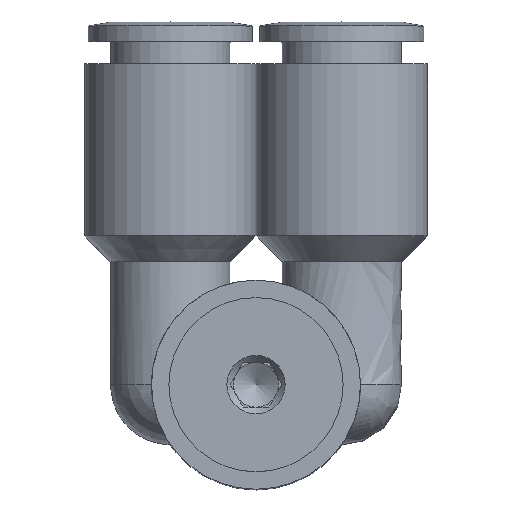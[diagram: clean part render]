
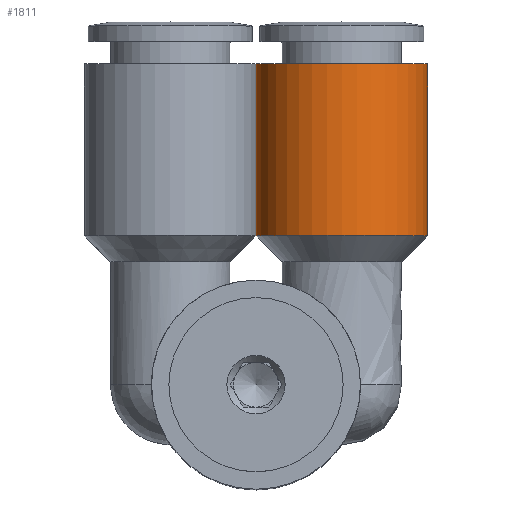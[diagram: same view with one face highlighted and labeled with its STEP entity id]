
A CAD part, top view. The second image highlights one B-rep face of the part: STEP entity #1811.
In plain terms, the highlighted free-form (B-spline) face has degree [1, 2] with [2, 9] control points.
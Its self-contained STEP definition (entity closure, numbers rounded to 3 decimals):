
#1746=CARTESIAN_POINT('',(0.,10.,15.0));
#1747=VERTEX_POINT('',#1746);
#1748=CARTESIAN_POINT('',(5.75,10.,15.0));
#1749=DIRECTION('',(0.0,-1.0,0.0));
#1750=DIRECTION('',(1.0,0.0,0.0));
#1751=AXIS2_PLACEMENT_3D('',#1748,#1749,#1750);
#1752=CIRCLE('',#1751,5.75);
#1753=EDGE_CURVE('',#1747,#1747,#1752,.T.);
#1761=CARTESIAN_POINT('',(0.,10.,15.0));
#1762=CARTESIAN_POINT('',(0.,21.5,15.0));
#1763=CARTESIAN_POINT('',(0.,10.,9.25));
#1764=CARTESIAN_POINT('',(0.,21.5,9.25));
#1765=CARTESIAN_POINT('',(5.75,10.0,9.25));
#1766=CARTESIAN_POINT('',(5.75,21.5,9.25));
#1767=CARTESIAN_POINT('',(11.5,10.,9.25));
#1768=CARTESIAN_POINT('',(11.5,21.5,9.25));
#1769=CARTESIAN_POINT('',(11.5,10.,15.0));
#1770=CARTESIAN_POINT('',(11.5,21.5,15.0));
#1771=CARTESIAN_POINT('',(11.5,10.,20.75));
#1772=CARTESIAN_POINT('',(11.5,21.5,20.75));
#1773=CARTESIAN_POINT('',(5.75,10.0,20.75));
#1774=CARTESIAN_POINT('',(5.75,21.5,20.75));
#1775=CARTESIAN_POINT('',(0.,10.,20.75));
#1776=CARTESIAN_POINT('',(0.,21.5,20.75));
#1777=CARTESIAN_POINT('',(0.,10.,15.0));
#1778=CARTESIAN_POINT('',(0.,21.5,15.0));
#1786=(BOUNDED_SURFACE()B_SPLINE_SURFACE(1,2,((#1761,#1763,#1765,#1767,#1769,#1771,#1773,#1775,#1777),(#1762,#1764,#1766,#1768,#1770,#1772,#1774,#1776,#1778)),.UNSPECIFIED.,.F.,.T.,.U.)B_SPLINE_SURFACE_WITH_KNOTS((2,2),(3,2,2,2,3),(-1.,1.),(0.0,9.032,18.064,27.096,36.128),.UNSPECIFIED.)GEOMETRIC_REPRESENTATION_ITEM()RATIONAL_B_SPLINE_SURFACE(((1.0,0.707,1.0,0.707,1.0,0.707,1.0,0.707,1.0),(1.0,0.707,1.0,0.707,1.0,0.707,1.0,0.707,1.0)))REPRESENTATION_ITEM('')SURFACE());
#1787=CARTESIAN_POINT('',(0.,21.5,15.0));
#1788=VERTEX_POINT('',#1787);
#1789=CARTESIAN_POINT('',(5.75,21.5,15.0));
#1790=DIRECTION('',(0.0,-1.0,0.0));
#1791=DIRECTION('',(1.0,0.0,0.0));
#1792=AXIS2_PLACEMENT_3D('',#1789,#1790,#1791);
#1793=CIRCLE('',#1792,5.75);
#1794=EDGE_CURVE('',#1788,#1788,#1793,.T.);
#1795=ORIENTED_EDGE('',*,*,#1794,.T.);
#1796=CARTESIAN_POINT('',(0.,21.5,15.0));
#1797=DIRECTION('',(0.0,-1.0,0.0));
#1798=VECTOR('',#1797,11.5);
#1799=LINE('',#1796,#1798);
#1800=EDGE_CURVE('',#1788,#1747,#1799,.T.);
#1801=ORIENTED_EDGE('',*,*,#1800,.T.);
#1802=ORIENTED_EDGE('',*,*,#1753,.F.);
#1803=CARTESIAN_POINT('',(0.,21.5,15.0));
#1804=DIRECTION('',(0.0,-1.0,0.0));
#1805=VECTOR('',#1804,11.5);
#1806=LINE('',#1803,#1805);
#1807=EDGE_CURVE('',#1788,#1747,#1806,.T.);
#1808=ORIENTED_EDGE('',*,*,#1807,.F.);
#1809=EDGE_LOOP('',(#1795,#1801,#1802,#1808));
#1810=FACE_OUTER_BOUND('',#1809,.T.);
#1811=ADVANCED_FACE('',(#1810),#1786,.T.);
